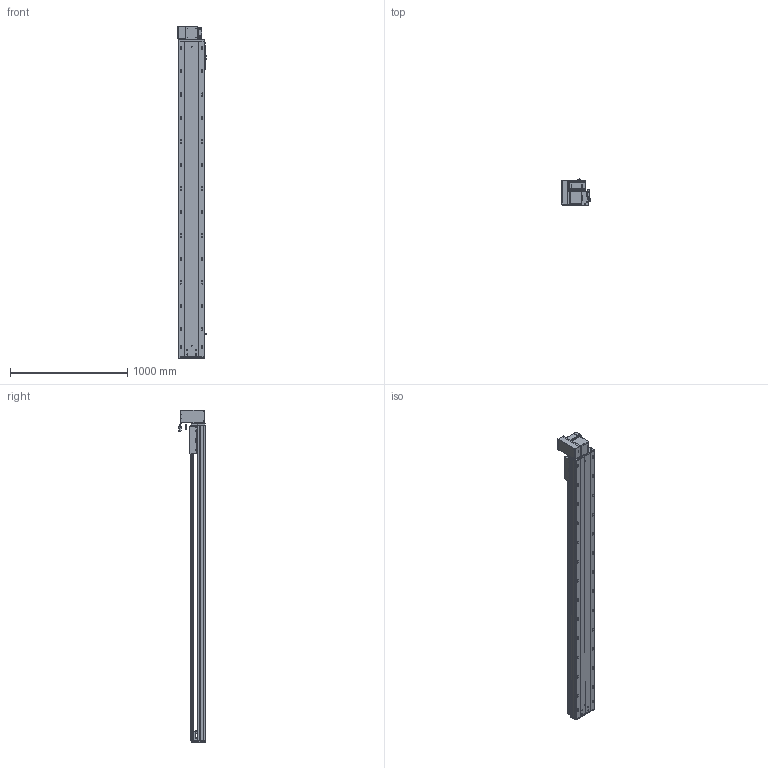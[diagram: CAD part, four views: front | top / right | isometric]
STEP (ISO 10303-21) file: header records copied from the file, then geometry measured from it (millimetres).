
FILE_DESCRIPTION (( 'STEP AP203' ), '1' );
FILE_NAME ('RY220-T-300-UL.SLDASM_2350.step', '2022-07-25T08:35:27', ( '' ), ( '' ), 'SwSTEP 2.0', 'SolidWorks 2016', '' );
FILE_SCHEMA (( 'CONFIG_CONTROL_DESIGN' ));
Length unit declared in the file: millimetre
Products named in the file (14): RY220-同步轮副支撑座6304×2; RY220圉猾敕々湍臏賑輸; RY220-T-蛌殏萇儂假蚾啣(750W); RY220-T-300-UL.SLDASM_2350; RY220-T-湍謫欶(鍼踢); 怢湛750W_ECMA-CX0807ES; RY220翋肮祭謫釱; RY220-T-300-奻裔啣_2350; 覜茼ん672; 110A-T-肮祭謫釱傷裔; RY220-俋离672覜茼んえ; RY220-T菁釱-300_2350; 滅袉蝶18-15; RY220翋肮祭謫裔啣
Assembly tree (18 placements, depth 2):
  RY220-T-300-UL.SLDASM_2350
    RY220-T菁釱-300_2350
    RY220翋肮祭謫釱
    覜茼ん672  x3
    RY220圉猾敕々湍臏賑輸
    RY220-T-300-奻裔啣_2350
    RY220-俋离672覜茼んえ
    滅袉蝶18-15  x3
    RY220翋肮祭謫裔啣  x2
    110A-T-肮祭謫釱傷裔
    怢湛750W_ECMA-CX0807ES
    RY220-T-湍謫欶(鍼踢)
    RY220-T-蛌殏萇儂假蚾啣(750W)
    RY220-同步轮副支撑座6304×2
Bounding box: 239.7 x 231.74 x 2830.5 mm (x, y, z)
Volume: 20997117.7 mm3; surface area: 6427906.3 mm2
Topology: 19 solids, 19 shells, 2898 faces, 8011 edges, 5034 vertices
Faces by surface type: cylinder 1410, plane 1069, cone 337, bspline 56, sphere 16, torus 10
Entity records: 96579 total; most frequent: CARTESIAN_POINT 27323, ORIENTED_EDGE 14330, DIRECTION 13760, EDGE_CURVE 7165, AXIS2_PLACEMENT_3D 4940, VERTEX_POINT 4658, VECTOR 3880, LINE 3880
